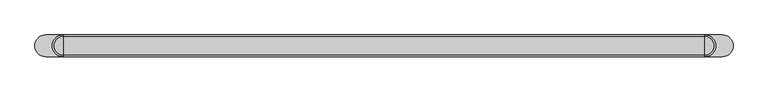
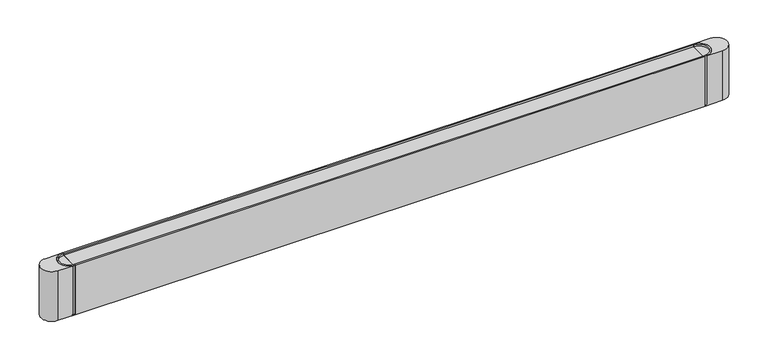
"""IFC4 building model written with IfcOpenShell, lengths in millimetres: light fixture geometry, Lighting-Ceiling-Betacalco-Block-Straight : BLKC-DT1-PW01-TR01-SL04-EP01-LP020-CR80-CTA40."""

from ifc_helpers import new_model, si_unit, point, frame, frame_2d, origin, origin_with_axes, place, context, project, spatial, polyline, circle_curve, trimmed, segment, composite_curve, outline, extrude, source, transform, mapped, element, save
from ifc_brep_helpers import plane_surface, cylinder_surface, revolved_surface, advanced_brep


def light_fixture_c3b2ef91(model_context):
    return source(origin(), model_context, "Body", "SolidModel", [
        extrude(outline(composite_curve([segment(polyline([(609.6, -20.6375), (609.6, -18.0975)]), True, "CONTINUOUS"), segment(trimmed(circle_curve(frame_2d((609.6, 0.0)), 18.0975), [point((609.6, -18.0975))], [point((609.6, 18.0975))], True, "CARTESIAN"), True, "CONTINUOUS"), segment(polyline([(609.6, 18.0975), (609.6, 20.6375)]), True, "CONTINUOUS"), segment(trimmed(circle_curve(frame_2d((609.6, 0.0)), 20.6375), [point((609.6, 20.6375))], [point((609.6, -20.6375))], False, "CARTESIAN"), True, "CONTINUOUS")], self_intersect=False)), frame((0.0, 0.0, 1.5875), z_axis=(0.0, 0.0, 1.0), x_axis=(1.0, 0.0, 0.0)), (0.0, 0.0, 1.0), 100.0125),
        extrude(outline(composite_curve([segment(polyline([(609.6, -18.0975), (609.6, 18.0975)]), True, "CONTINUOUS"), segment(trimmed(circle_curve(frame_2d((609.6, 0.0)), 18.0975), [point((609.6, 18.0975))], [point((609.6, -18.0975))], False, "CARTESIAN"), True, "CONTINUOUS")], self_intersect=False)), frame((0.0, 0.0, 96.3095588), z_axis=(0.0, 0.0, 1.0), x_axis=(1.0, 0.0, 0.0)), (0.0, 0.0, 1.0), 1.5875),
        advanced_brep(
        [(609.6, 20.6375, 1.5875), (609.6, -20.6375, 1.5875), (609.6, -20.6375, 0.0), (609.6, 20.6375, 0.0), (642.9375, 20.6375, 0.0), (642.9375, -20.6375, 0.0), (609.6, 20.6375, 101.6), (609.6, -20.6375, 101.6), (642.9375, -20.6375, 101.6), (642.9375, 20.6375, 101.6)],
        [
            (0, 1),
            (1, 0, circle_curve(frame((609.6, 0.0, 1.5875), z_axis=(0.0, 0.0, 1.0), x_axis=(1.0, 0.0, 0.0)), 20.6375)),
            (2, 3),
            (3, 4),
            (4, 5, circle_curve(frame((642.9375, 0.0, 0.0), z_axis=(0.0, 0.0, -1.0), x_axis=(1.0, 0.0, 0.0)), 20.6375)),
            (5, 2),
            (0, 3),
            (2, 1),
            (6, 7, circle_curve(frame((609.6, 0.0, 101.6), z_axis=(0.0, 0.0, -1.0), x_axis=(1.0, 0.0, 0.0)), 20.6375)),
            (7, 8),
            (8, 9, circle_curve(frame((642.9375, 0.0, 101.6), z_axis=(0.0, 0.0, 1.0), x_axis=(1.0, 0.0, 0.0)), 20.6375)),
            (9, 6),
            (6, 0),
            (1, 7),
            (5, 8),
            (4, 9),
        ],
        [
            plane_surface(frame((630.2375, 0.0, 1.5875), z_axis=(0.0, 0.0, 1.0), x_axis=(0.0, 1.0, 0.0))),
            plane_surface(frame((630.2375, 0.0, 0.0), z_axis=(0.0, 0.0, -1.0), x_axis=(0.0, -1.0, 0.0))),
            plane_surface(frame((609.6, 20.6375, 1.5875), z_axis=(-1.0, 0.0, 0.0), x_axis=(0.0, 0.0, -1.0))),
            plane_surface(frame((630.2375, 0.0, 101.6), z_axis=(0.0, 0.0, 1.0), x_axis=(0.0, -1.0, 0.0))),
            revolved_surface(polyline([(630.2375000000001, 0.0, 1.5875), (630.2375000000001, 0.0, 101.6)]), (609.6, 0.0, 0.0), (0.0, 0.0, -1.0)),
            plane_surface(frame((609.6, -20.6375, 101.6), z_axis=(0.0, -1.0, 0.0), x_axis=(0.0, 0.0, -1.0))),
            cylinder_surface(frame((642.9375, 0.0, 0.0), z_axis=(0.0, 0.0, 1.0), x_axis=(1.0, 0.0, 0.0)), 20.6375),
            plane_surface(frame((642.9375, 20.6375, 101.6), z_axis=(0.0, 1.0, 0.0), x_axis=(0.0, 0.0, -1.0))),
        ],
        [
            (0, [[1, 2]]),
            (1, [[3, 4, 5, 6]]),
            (2, [[-1, 7, -3, 8]]),
            (3, [[9, 10, 11, 12]]),
            (4, [[-9, 13, -2, 14]]),
            (5, [[-10, -14, -8, -6, 15]]),
            (6, [[-11, -15, -5, 16]]),
            (7, [[-12, -16, -4, -7, -13]]),
        ],
    ),
        extrude(outline(composite_curve([segment(polyline([(-609.6, 20.6375), (-609.6, 18.0975)]), True, "CONTINUOUS"), segment(trimmed(circle_curve(frame_2d((-609.6, 0.0)), 18.0975), [point((-609.6, 18.0975))], [point((-609.6, -18.0975))], True, "CARTESIAN"), True, "CONTINUOUS"), segment(polyline([(-609.6, -18.0975), (-609.6, -20.6375)]), True, "CONTINUOUS"), segment(trimmed(circle_curve(frame_2d((-609.6, 0.0)), 20.6375), [point((-609.6, -20.6375))], [point((-609.6, 20.6375))], False, "CARTESIAN"), True, "CONTINUOUS")], self_intersect=False)), frame((0.0, 0.0, 1.5875), z_axis=(0.0, 0.0, 1.0), x_axis=(1.0, 0.0, 0.0)), (0.0, 0.0, 1.0), 100.0125),
        extrude(outline(composite_curve([segment(polyline([(-609.6, 18.0975), (-609.6, -18.0975)]), True, "CONTINUOUS"), segment(trimmed(circle_curve(frame_2d((-609.6, 0.0)), 18.0975), [point((-609.6, -18.0975))], [point((-609.6, 18.0975))], False, "CARTESIAN"), True, "CONTINUOUS")], self_intersect=False)), frame((0.0, 0.0, 96.3095588), z_axis=(0.0, 0.0, 1.0), x_axis=(1.0, 0.0, 0.0)), (0.0, 0.0, 1.0), 1.5875),
        advanced_brep(
        [(-609.6, -20.6375, 1.5875), (-609.6, 20.6375, 1.5875), (-609.6, 20.6375, 0.0), (-609.6, -20.6375, 0.0), (-642.9375, -20.6375, 0.0), (-642.9375, 20.6375, 0.0), (-609.6, -20.6375, 101.6), (-609.6, 20.6375, 101.6), (-642.9375, 20.6375, 101.6), (-642.9375, -20.6375, 101.6)],
        [
            (0, 1),
            (1, 0, circle_curve(frame((-609.6, 0.0, 1.5875), z_axis=(0.0, 0.0, 1.0), x_axis=(-1.0, 0.0, 0.0)), 20.6375)),
            (2, 3),
            (3, 4),
            (4, 5, circle_curve(frame((-642.9375, 0.0, 0.0), z_axis=(0.0, 0.0, -1.0), x_axis=(-1.0, 0.0, 0.0)), 20.6375)),
            (5, 2),
            (0, 3),
            (2, 1),
            (6, 7, circle_curve(frame((-609.6, 0.0, 101.6), z_axis=(0.0, 0.0, -1.0), x_axis=(-1.0, 0.0, 0.0)), 20.6375)),
            (7, 8),
            (8, 9, circle_curve(frame((-642.9375, 0.0, 101.6), z_axis=(0.0, 0.0, 1.0), x_axis=(-1.0, 0.0, 0.0)), 20.6375)),
            (9, 6),
            (6, 0),
            (1, 7),
            (5, 8),
            (4, 9),
        ],
        [
            plane_surface(frame((-630.2375, 0.0, 1.5875), z_axis=(0.0, 0.0, 1.0), x_axis=(0.0, -1.0, 0.0))),
            plane_surface(frame((-630.2375, 0.0, 0.0), z_axis=(0.0, 0.0, -1.0), x_axis=(0.0, 1.0, 0.0))),
            plane_surface(frame((-609.6, -20.6375, 1.5875), z_axis=(1.0, 0.0, 0.0), x_axis=(0.0, 0.0, -1.0))),
            plane_surface(frame((-630.2375, 0.0, 101.6), z_axis=(0.0, 0.0, 1.0), x_axis=(0.0, 1.0, 0.0))),
            revolved_surface(polyline([(-630.2375000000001, 0.0, 1.5875), (-630.2375000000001, 0.0, 101.6)]), (-609.6, 0.0, 0.0), (0.0, 0.0, -1.0)),
            plane_surface(frame((-609.6, 20.6375, 101.6), z_axis=(0.0, 1.0, 0.0), x_axis=(0.0, 0.0, -1.0))),
            cylinder_surface(frame((-642.9375, 0.0, 0.0), z_axis=(0.0, 0.0, 1.0), x_axis=(-1.0, 0.0, 0.0)), 20.6375),
            plane_surface(frame((-642.9375, -20.6375, 101.6), z_axis=(0.0, -1.0, 0.0), x_axis=(0.0, 0.0, -1.0))),
        ],
        [
            (0, [[1, 2]]),
            (1, [[3, 4, 5, 6]]),
            (2, [[-1, 7, -3, 8]]),
            (3, [[9, 10, 11, 12]]),
            (4, [[-9, 13, -2, 14]]),
            (5, [[-10, -14, -8, -6, 15]]),
            (6, [[-11, -15, -5, 16]]),
            (7, [[-12, -16, -4, -7, -13]]),
        ],
    ),
        extrude(outline(polyline([(609.6, 18.0975), (609.6, -18.0975), (-609.6, -18.0975), (-609.6, 18.0975), (609.6, 18.0975)])), frame((0.0, 0.0, 96.3095588), z_axis=(0.0, 0.0, 1.0), x_axis=(1.0, 0.0, 0.0)), (0.0, 0.0, 1.0), 1.5875),
        extrude(outline(polyline([(609.6, 18.0975), (609.6, -18.0975), (-609.6, -18.0975), (-609.6, 18.0975), (609.6, 18.0975)])), frame((0.0, 0.0, 53.687913), z_axis=(0.0, 0.0, 1.0), x_axis=(1.0, 0.0, 0.0)), (0.0, 0.0, 1.0), 1.5875),
        extrude(outline(polyline([(609.6, 18.0975), (609.6, -18.0975), (-609.6, -18.0975), (-609.6, 18.0975), (609.6, 18.0975)])), origin_with_axes(), (0.0, 0.0, 1.0), 1.5875),
        extrude(outline(polyline([(609.6, 20.6375), (609.6, 18.0975), (-609.6, 18.0975), (-609.6, 20.6375), (609.6, 20.6375)])), origin_with_axes(), (0.0, 0.0, 1.0), 101.6),
        extrude(outline(polyline([(609.6, -18.0975), (609.6, -20.6375), (-609.6, -20.6375), (-609.6, -18.0975), (609.6, -18.0975)])), origin_with_axes(), (0.0, 0.0, 1.0), 101.6),
    ])


if __name__ == "__main__":
    model = new_model("IFC4")
    model_context = context("Model", 3, world=origin())
    ifc_project = project(units=[si_unit("LENGTHUNIT", "METRE", prefix="MILLI")], contexts=[model_context])
    site = spatial("IfcSite", under=ifc_project)
    building = spatial("IfcBuilding", under=site)
    placement = place(None, origin())
    light_fixture_shape = light_fixture_c3b2ef91(model_context)
    element("IfcLightFixture", 1, ObjectType="Lighting-Ceiling-Betacalco-Block-Straight : BLKC-DT1-PW01-TR01-SL04-EP01-LP020-CR80-CTA40", at=placement, inside=building, context=model_context, shape_type="MappedRepresentation", body=[
        mapped(light_fixture_shape, transform((0.0, 0.0, 0.0), x_axis=(1.0, 0.0, 0.0), y_axis=(0.0, 1.0, 0.0), z_axis=(0.0, 0.0, 1.0))),
    ])
    save(model, "model.ifc")
